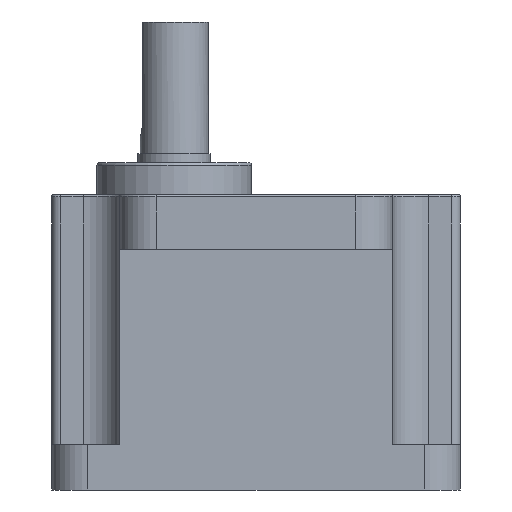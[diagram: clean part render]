
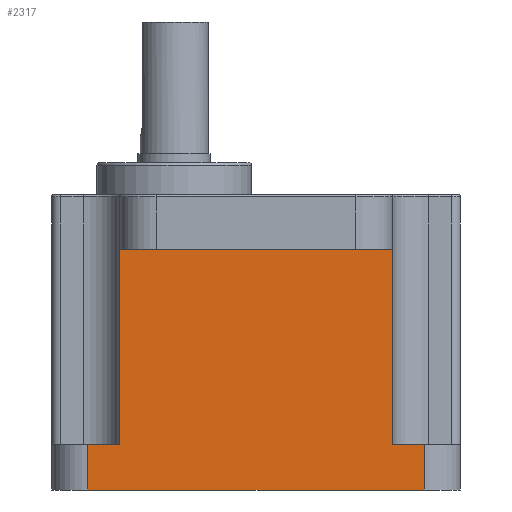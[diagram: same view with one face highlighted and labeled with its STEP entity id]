
A CAD part, left-side view. The second image highlights one B-rep face of the part: STEP entity #2317.
In plain terms, the highlighted planar face has unit normal (-1, 0, 0).
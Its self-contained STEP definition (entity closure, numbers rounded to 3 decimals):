
#955=CARTESIAN_POINT('',(-45.,-30.,53.));
#956=VERTEX_POINT('',#955);
#963=CARTESIAN_POINT('',(-45.,-30.,10.0));
#964=VERTEX_POINT('',#963);
#965=CARTESIAN_POINT('',(-45.,-30.,10.0));
#966=DIRECTION('',(0.0,0.0,1.0));
#967=VECTOR('',#966,43.);
#968=LINE('',#965,#967);
#969=EDGE_CURVE('',#964,#956,#968,.T.);
#1069=CARTESIAN_POINT('',(-45.,30.,10.0));
#1070=VERTEX_POINT('',#1069);
#1077=CARTESIAN_POINT('',(-45.,30.,53.));
#1078=VERTEX_POINT('',#1077);
#1079=CARTESIAN_POINT('',(-45.,30.,10.0));
#1080=DIRECTION('',(0.0,0.0,1.0));
#1081=VECTOR('',#1080,43.);
#1082=LINE('',#1079,#1081);
#1083=EDGE_CURVE('',#1070,#1078,#1082,.T.);
#2114=CARTESIAN_POINT('',(-45.,-37.0,10.0));
#2115=VERTEX_POINT('',#2114);
#2116=CARTESIAN_POINT('',(-45.,-37.0,10.0));
#2117=DIRECTION('',(0.0,1.0,0.0));
#2118=VECTOR('',#2117,7.);
#2119=LINE('',#2116,#2118);
#2120=EDGE_CURVE('',#2115,#964,#2119,.T.);
#2149=CARTESIAN_POINT('',(-45.,37.0,10.0));
#2150=VERTEX_POINT('',#2149);
#2158=CARTESIAN_POINT('',(-45.,30.,10.0));
#2159=DIRECTION('',(0.0,1.0,0.0));
#2160=VECTOR('',#2159,7.);
#2161=LINE('',#2158,#2160);
#2162=EDGE_CURVE('',#1070,#2150,#2161,.T.);
#2266=CARTESIAN_POINT('',(-45.,-37.0,0.0));
#2267=VERTEX_POINT('',#2266);
#2268=CARTESIAN_POINT('',(-45.,-37.0,0.0));
#2269=DIRECTION('',(0.0,0.0,1.0));
#2270=VECTOR('',#2269,10.0);
#2271=LINE('',#2268,#2270);
#2272=EDGE_CURVE('',#2267,#2115,#2271,.T.);
#2285=CARTESIAN_POINT('',(-45.,-37.0,0.0));
#2286=DIRECTION('',(-1.0,0.0,0.0));
#2287=DIRECTION('',(0.0,0.0,1.0));
#2288=AXIS2_PLACEMENT_3D('',#2285,#2286,#2287);
#2289=PLANE('',#2288);
#2290=ORIENTED_EDGE('',*,*,#2120,.T.);
#2291=ORIENTED_EDGE('',*,*,#969,.T.);
#2292=CARTESIAN_POINT('',(-45.,30.,53.));
#2293=DIRECTION('',(0.0,-1.0,0.0));
#2294=VECTOR('',#2293,60.0);
#2295=LINE('',#2292,#2294);
#2296=EDGE_CURVE('',#1078,#956,#2295,.T.);
#2297=ORIENTED_EDGE('',*,*,#2296,.F.);
#2298=ORIENTED_EDGE('',*,*,#1083,.F.);
#2299=ORIENTED_EDGE('',*,*,#2162,.T.);
#2300=CARTESIAN_POINT('',(-45.,37.0,0.0));
#2301=VERTEX_POINT('',#2300);
#2302=CARTESIAN_POINT('',(-45.,37.0,0.0));
#2303=DIRECTION('',(0.0,0.0,1.0));
#2304=VECTOR('',#2303,10.0);
#2305=LINE('',#2302,#2304);
#2306=EDGE_CURVE('',#2301,#2150,#2305,.T.);
#2307=ORIENTED_EDGE('',*,*,#2306,.F.);
#2308=CARTESIAN_POINT('',(-45.,-37.0,0.0));
#2309=DIRECTION('',(0.0,1.0,0.0));
#2310=VECTOR('',#2309,74.0);
#2311=LINE('',#2308,#2310);
#2312=EDGE_CURVE('',#2267,#2301,#2311,.T.);
#2313=ORIENTED_EDGE('',*,*,#2312,.F.);
#2314=ORIENTED_EDGE('',*,*,#2272,.T.);
#2315=EDGE_LOOP('',(#2290,#2291,#2297,#2298,#2299,#2307,#2313,#2314));
#2316=FACE_OUTER_BOUND('',#2315,.T.);
#2317=ADVANCED_FACE('',(#2316),#2289,.T.);
